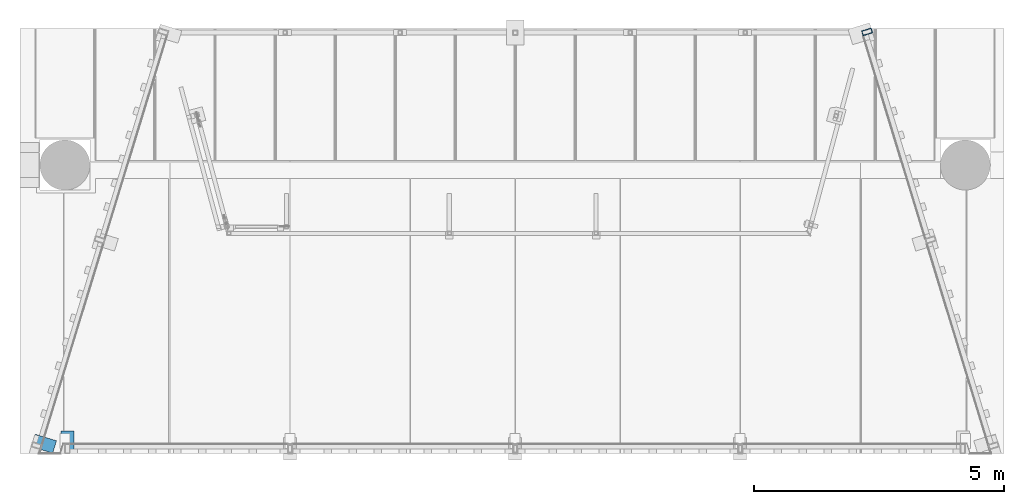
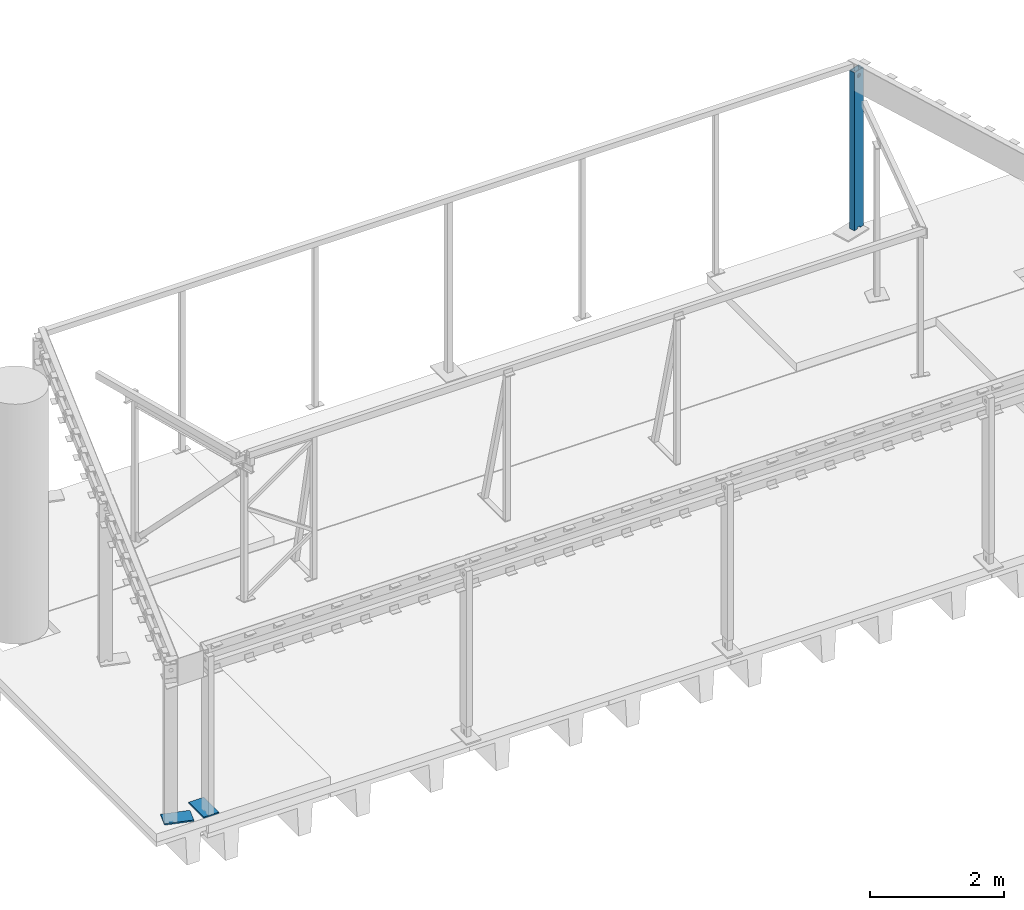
# One storey, part 5 of 19: 3 columns.
"""IFC2X3 building model written with IfcOpenShell, lengths in millimetres."""

from ifc_helpers import new_model, entity, si_unit, converted_unit, derived_unit, direction, frame, origin_with_axes, place, context, subcontext, project, spatial, faceted_brep, material, type_object, element, save


model = new_model("IFC2X3")

# Units and contexts
model_context = context("Model", 3, precision=0.01, world=frame((0.0, 4.29681676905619e-09, 0.0)), true_north=direction((4.01073788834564e-13, 1.0)))
plan_context = context("Plan", 3, precision=0.01, world=frame((0.0, 4.29681676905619e-09, 0.0)), true_north=direction((4.01073788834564e-13, 1.0)))
body_context = subcontext(model_context, "Body", "Model", "MODEL_VIEW")
ifc_project = project(units=[converted_unit("PLANEANGLEUNIT", "DEGREE", entity("IfcPositiveLengthMeasure", 0.0174532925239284), si_unit("PLANEANGLEUNIT", "RADIAN"), dimensions=[0, 0, 0, 0, 0, 0, 0]), si_unit("AREAUNIT", "SQUARE_METRE"), si_unit("LENGTHUNIT", "METRE", prefix="MILLI"), si_unit("MASSUNIT", "GRAM", prefix="KILO"), si_unit("POWERUNIT", "WATT"), si_unit("PRESSUREUNIT", "PASCAL", prefix="KILO"), si_unit("FORCEUNIT", "NEWTON", prefix="KILO"), si_unit("ELECTRICVOLTAGEUNIT", "VOLT"), si_unit("ELECTRICCURRENTUNIT", "AMPERE"), si_unit("THERMODYNAMICTEMPERATUREUNIT", "DEGREE_CELSIUS"), si_unit("TIMEUNIT", "SECOND"), si_unit("VOLUMEUNIT", "CUBIC_METRE"), derived_unit("LINEARVELOCITYUNIT", [(si_unit("LENGTHUNIT", "METRE"), 1), (si_unit("TIMEUNIT", "SECOND"), -1)]), derived_unit("VOLUMETRICFLOWRATEUNIT", [(si_unit("VOLUMEUNIT", "CUBIC_METRE"), 1), (si_unit("TIMEUNIT", "SECOND"), -1)]), derived_unit("THERMALTRANSMITTANCEUNIT", [(si_unit("POWERUNIT", "WATT"), 1), (si_unit("THERMODYNAMICTEMPERATUREUNIT", "KELVIN"), -1), (si_unit("AREAUNIT", "SQUARE_METRE"), -1)]), derived_unit("SOUNDPRESSUREUNIT", [(si_unit("PRESSUREUNIT", "PASCAL"), 1)])], contexts=[model_context, plan_context])

# Site, building, storey
site_placement = place(None, frame((0.0, -4.29681676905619e-09, 0.0), z_axis=(0.0, 0.0, 1.0), x_axis=(1.0, 0.0, 0.0)))
site = spatial("IfcSite", under=ifc_project, at=site_placement, Name="Gardermoen", CompositionType="ELEMENT")
building_placement = place(site_placement, frame((0.0, 4.29681676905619e-09, 0.0), z_axis=(0.0, 0.0, 1.0), x_axis=(1.0, 0.0, 0.0)))
building = spatial("IfcBuilding", under=site, at=building_placement, Name="TI", CompositionType="ELEMENT")
storey_placement = place(building_placement, origin_with_axes())
storey = spatial("IfcBuildingStorey", under=building, at=storey_placement, Name="F", CompositionType="ELEMENT", Elevation=0.0)

# Columns
ifc_material = material(Name="STEEL/S355")
column_type_1 = type_object("IfcColumnType", Name="RHS200*100*8", PredefinedType="NOTDEFINED")
column_placement = place(storey_placement, frame((599035.80901995, 578161.835119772, 210855.0), z_axis=(-0.956304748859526, -0.292371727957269, 0.0), x_axis=(0.0, 0.0, 1.0)))
element("IfcColumn", 1, at=column_placement, inside=storey, type_object=column_type_1, material=ifc_material, Name="STÅLSØYLE", ObjectType="RHS200*100*8", context=body_context, shape_type="Brep", body=[
    faceted_brep([(30.0, -49.9999999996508, -27.4989900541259), (30.0, -41.9999999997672, -27.4989900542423), (0.0, -41.9999999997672, -27.4989900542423), (0.0, -49.9999999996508, -27.4989900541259), (30.0, -49.999999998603, 27.5010099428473), (30.0, -41.9999999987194, 27.5010099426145), (0.0, -49.999999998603, 27.5010099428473), (0.0, -41.9999999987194, 27.5010099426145), (30.0, 41.999999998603, -27.4989900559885), (30.0, 49.9999999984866, -27.498990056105), (0.0, 49.9999999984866, -27.498990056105), (0.0, 41.999999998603, -27.4989900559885), (30.0, 41.9999999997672, 27.5010099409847), (30.0, 49.9999999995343, 27.5010099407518), (0.0, 41.9999999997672, 27.5010099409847), (0.0, 49.9999999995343, 27.5010099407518), (0.0, -50.0, -100.0), (0.0, 50.0, -100.0), (2882.0006866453, 50.0, -100.0), (2882.0006866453, -50.0, -100.0), (-1.39698386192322e-06, 50.0000000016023, 99.999992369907), (-1.39791518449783e-06, -49.9999999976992, 99.999992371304), (2882.0006866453, -50.0, 100.0), (2882.0006866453, 50.0, 100.0), (0.0, 42.0, 92.0), (0.0, -42.0, 92.0), (2882.0006866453, 42.0, 92.0), (2882.0006866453, -42.0, 92.0), (2882.0006866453, 42.0, -92.0), (2882.0006866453, -42.0, -92.0), (0.0, 42.0, -92.0), (0.0, -42.0, -92.0), (2806.74942397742, -41.9999999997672, 24.7487373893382), (2795.39460676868, -42.0, 32.3357836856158), (2782.0006866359, -42.0, 35.0000000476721), (2768.60676650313, -42.0, 32.3357836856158), (2757.25194929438, -41.9999999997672, 24.7487373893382), (2749.66490299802, -41.9999999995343, 13.3939201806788), (2747.0006866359, -41.9999999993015, 4.79631125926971e-08), (2749.66490299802, -41.9999999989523, -13.3939200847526), (2757.25194929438, -41.9999999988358, -24.7487372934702), (2768.60676650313, -41.9999999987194, -32.3357835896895), (2782.0006866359, -41.999999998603, -34.9999999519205), (2795.39460676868, -41.9999999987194, -32.3357835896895), (2806.74942397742, -41.9999999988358, -24.7487372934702), (2814.33647027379, -41.9999999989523, -13.3939200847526), (2817.0006866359, -41.9999999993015, 4.79631125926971e-08), (2814.33647027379, -41.9999999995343, 13.3939201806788), (2814.33647027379, -49.9999999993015, 13.3939201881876), (2817.0006866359, -49.9999999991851, 5.5413693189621e-08), (2806.74942397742, -49.9999999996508, 24.7487373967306), (2795.39460676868, -49.9999999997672, 32.3357836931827), (2782.0006866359, -49.9999999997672, 35.0000000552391), (2768.60676650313, -49.9999999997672, 32.3357836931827), (2757.25194929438, -49.9999999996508, 24.7487373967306), (2749.66490299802, -49.9999999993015, 13.3939201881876), (2747.0006866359, -49.9999999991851, 5.5413693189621e-08), (2749.66490299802, -49.9999999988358, -13.3939200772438), (2757.25194929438, -49.999999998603, -24.7487372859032), (2768.60676650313, -49.9999999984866, -32.3357835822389), (2782.0006866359, -49.9999999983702, -34.9999999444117), (2795.39460676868, -49.9999999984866, -32.3357835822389), (2806.74942397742, -49.999999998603, -24.7487372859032), (2814.33647027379, -49.9999999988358, -13.3939200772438), (2806.74942397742, 49.999999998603, 24.748737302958), (2795.39460676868, 49.9999999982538, 32.3357835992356), (2782.0006866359, 49.9999999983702, 34.9999999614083), (2768.60676650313, 49.9999999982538, 32.3357835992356), (2757.25194929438, 49.999999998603, 24.748737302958), (2749.66490299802, 49.9999999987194, 13.3939200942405), (2747.0006866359, 49.9999999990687, -3.84170562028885e-08), (2749.66490299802, 49.9999999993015, -13.393920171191), (2757.25194929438, 49.9999999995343, -24.7487373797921), (2768.60676650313, 49.9999999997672, -32.3357836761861), (2782.0006866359, 49.9999999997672, -35.0000000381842), (2795.39460676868, 49.9999999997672, -32.3357836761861), (2806.74942397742, 49.9999999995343, -24.7487373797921), (2814.33647027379, 49.9999999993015, -13.393920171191), (2817.0006866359, 49.9999999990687, -3.84170562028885e-08), (2814.33647027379, 49.9999999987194, 13.3939200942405), (2814.33647027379, 41.9999999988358, 13.3939201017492), (2817.0006866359, 41.9999999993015, -3.09664756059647e-08), (2806.74942397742, 41.999999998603, 24.7487373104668), (2795.39460676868, 41.999999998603, 32.3357836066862), (2782.0006866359, 41.9999999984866, 34.9999999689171), (2768.60676650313, 41.999999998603, 32.3357836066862), (2757.25194929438, 41.999999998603, 24.7487373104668), (2749.66490299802, 41.9999999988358, 13.3939201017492), (2747.0006866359, 41.9999999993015, -3.09664756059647e-08), (2749.66490299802, 41.9999999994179, -13.393920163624), (2757.25194929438, 41.9999999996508, -24.7487373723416), (2768.60676650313, 41.9999999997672, -32.3357836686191), (2782.0006866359, 41.9999999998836, -35.0000000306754), (2795.39460676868, 41.9999999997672, -32.3357836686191), (2806.74942397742, 41.9999999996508, -24.7487373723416), (2814.33647027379, 41.9999999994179, -13.393920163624)], [[[0, 1, 2, 3]], [[4, 5, 1, 0]], [[6, 7, 5, 4]], [[8, 9, 10, 11]], [[12, 13, 9, 8]], [[14, 15, 13, 12]], [[16, 17, 18, 19]], [[20, 21, 22, 23]], [[21, 20, 15, 14, 24, 25, 7, 6]], [[25, 24, 26, 27]], [[22, 19, 18, 23], [27, 26, 28, 29]], [[30, 31, 29, 28]], [[25, 27, 29, 31, 2, 1, 5, 7], [32, 33, 34, 35, 36, 37, 38, 39, 40, 41, 42, 43, 44, 45, 46, 47]], [[48, 47, 46, 49]], [[50, 32, 47, 48]], [[51, 33, 32, 50]], [[52, 34, 33, 51]], [[53, 35, 34, 52]], [[54, 36, 35, 53]], [[55, 37, 36, 54]], [[56, 38, 37, 55]], [[57, 39, 38, 56]], [[58, 40, 39, 57]], [[59, 41, 40, 58]], [[60, 42, 41, 59]], [[61, 43, 42, 60]], [[62, 44, 43, 61]], [[63, 45, 44, 62]], [[49, 46, 45, 63]], [[3, 16, 19, 22, 21, 6, 4, 0], [62, 61, 60, 59, 58, 57, 56, 55, 54, 53, 52, 51, 50, 48, 49, 63]], [[31, 30, 11, 10, 17, 16, 3, 2]], [[20, 23, 18, 17, 10, 9, 13, 15], [64, 65, 66, 67, 68, 69, 70, 71, 72, 73, 74, 75, 76, 77, 78, 79]], [[80, 79, 78, 81]], [[82, 64, 79, 80]], [[83, 65, 64, 82]], [[84, 66, 65, 83]], [[85, 67, 66, 84]], [[86, 68, 67, 85]], [[87, 69, 68, 86]], [[88, 70, 69, 87]], [[89, 71, 70, 88]], [[90, 72, 71, 89]], [[91, 73, 72, 90]], [[92, 74, 73, 91]], [[93, 75, 74, 92]], [[94, 76, 75, 93]], [[95, 77, 76, 94]], [[81, 78, 77, 95]], [[11, 30, 28, 26, 24, 14, 12, 8], [94, 93, 92, 91, 90, 89, 88, 87, 86, 85, 84, 83, 82, 80, 81, 95]]]),
])
column_type_2 = type_object("IfcColumnType", Name="PL25*260", PredefinedType="NOTDEFINED")
for number, where, z_axis, x_axis in (
    (2, (582362.934992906, 569995.540532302, 210842.5), (-0.292371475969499, -0.956304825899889, 0.0), (0.956304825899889, -0.292371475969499, 0.0)),
    (3, (583050.000043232, 569730.0, 210842.5), (-1.0, 0.0, 0.0), (0.0, 1.0, 0.0)),
):
    element("IfcColumn", number, at=place(storey_placement, frame(where, z_axis=z_axis, x_axis=x_axis)), inside=storey, type_object=column_type_2, material=ifc_material, Name="STÅLSØYLE", ObjectType="PL25*260", context=body_context, shape_type="Brep", body=[
        faceted_brep([(-5.82076609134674e-10, 12.5, -130.0), (-5.82076609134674e-10, 12.5, 130.0), (449.999999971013, 12.5, 129.999999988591), (449.999999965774, 12.5, -130.000000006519), (3.49245965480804e-10, -12.4999999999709, 130.0), (449.999999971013, -12.5, 129.999999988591), (3.49245965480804e-10, -12.4999999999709, -130.0), (449.999999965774, -12.5, -130.000000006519)], [[[0, 1, 2, 3]], [[1, 4, 5, 2]], [[4, 6, 7, 5]], [[6, 0, 3, 7]], [[5, 7, 3, 2]], [[6, 4, 1, 0]]]),
    ])

save(model, "model.ifc")
